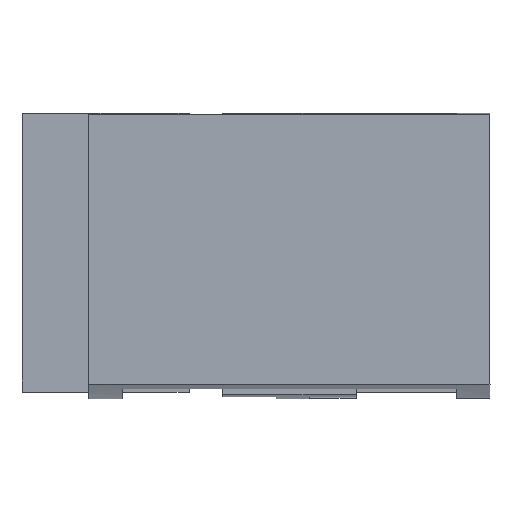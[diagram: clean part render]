
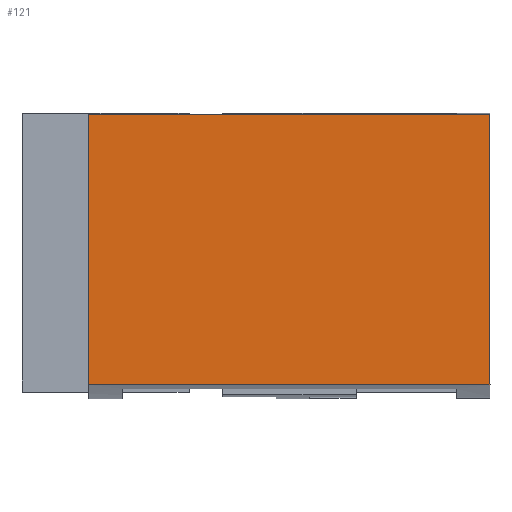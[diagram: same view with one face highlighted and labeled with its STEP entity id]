
A CAD part, front view. The second image highlights one B-rep face of the part: STEP entity #121.
In plain terms, the highlighted planar face has unit normal (0, -1, -0.003).
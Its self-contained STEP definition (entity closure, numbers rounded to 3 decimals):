
#52 = LINE ( 'NONE', #775, #1031 ) ;
#121 = ADVANCED_FACE ( 'NONE', ( #487 ), #453, .T. ) ;
#133 = VERTEX_POINT ( 'NONE', #587 ) ;
#153 = ORIENTED_EDGE ( 'NONE', *, *, #919, .T. ) ;
#186 = DIRECTION ( 'NONE',  ( 0., 0.002, -1. ) ) ;
#243 = LINE ( 'NONE', #399, #572 ) ;
#254 = VERTEX_POINT ( 'NONE', #1135 ) ;
#279 = CARTESIAN_POINT ( 'NONE',  ( -4.09, 27.087, -20.859 ) ) ;
#281 = DIRECTION ( 'NONE',  ( 0., -1., -0.002 ) ) ;
#399 = CARTESIAN_POINT ( 'NONE',  ( -4.09, 27.048, -5.365 ) ) ;
#453 = PLANE ( 'NONE',  #494 ) ;
#468 = ORIENTED_EDGE ( 'NONE', *, *, #669, .T. ) ;
#487 = FACE_OUTER_BOUND ( 'NONE', #911, .T. ) ;
#494 = AXIS2_PLACEMENT_3D ( 'NONE', #1024, #281, #186 ) ;
#562 = VERTEX_POINT ( 'NONE', #1071 ) ;
#572 = VECTOR ( 'NONE', #1056, 1000. ) ;
#573 = LINE ( 'NONE', #623, #981 ) ;
#587 = CARTESIAN_POINT ( 'NONE',  ( 4.377, 27.063, -11.077 ) ) ;
#623 = CARTESIAN_POINT ( 'NONE',  ( 4.377, 27.087, -20.859 ) ) ;
#669 = EDGE_CURVE ( 'NONE', #133, #750, #573, .T. ) ;
#686 = VECTOR ( 'NONE', #839, 1000. ) ;
#731 = CARTESIAN_POINT ( 'NONE',  ( 4.377, 27.048, -5.365 ) ) ;
#750 = VERTEX_POINT ( 'NONE', #731 ) ;
#775 = CARTESIAN_POINT ( 'NONE',  ( 0., 27.063, -11.077 ) ) ;
#784 = ORIENTED_EDGE ( 'NONE', *, *, #851, .F. ) ;
#795 = ORIENTED_EDGE ( 'NONE', *, *, #1001, .F. ) ;
#839 = DIRECTION ( 'NONE',  ( 0., -0.002, 1. ) ) ;
#851 = EDGE_CURVE ( 'NONE', #562, #254, #1177, .T. ) ;
#911 = EDGE_LOOP ( 'NONE', ( #784, #153, #468, #795 ) ) ;
#919 = EDGE_CURVE ( 'NONE', #562, #133, #52, .T. ) ;
#981 = VECTOR ( 'NONE', #1000, 1000. ) ;
#1000 = DIRECTION ( 'NONE',  ( 0., -0.002, 1. ) ) ;
#1001 = EDGE_CURVE ( 'NONE', #254, #750, #243, .T. ) ;
#1024 = CARTESIAN_POINT ( 'NONE',  ( -4.09, 27.087, -20.859 ) ) ;
#1031 = VECTOR ( 'NONE', #1138, 1000. ) ;
#1056 = DIRECTION ( 'NONE',  ( 1., 0., 0. ) ) ;
#1071 = CARTESIAN_POINT ( 'NONE',  ( -4.09, 27.063, -11.077 ) ) ;
#1135 = CARTESIAN_POINT ( 'NONE',  ( -4.09, 27.048, -5.365 ) ) ;
#1138 = DIRECTION ( 'NONE',  ( 1., 0., 0. ) ) ;
#1177 = LINE ( 'NONE', #279, #686 ) ;
